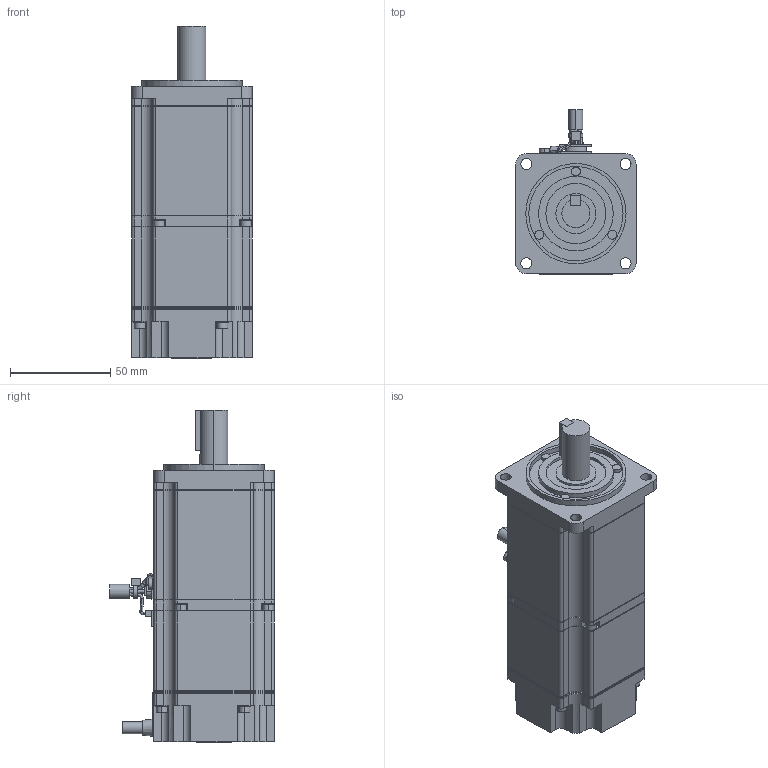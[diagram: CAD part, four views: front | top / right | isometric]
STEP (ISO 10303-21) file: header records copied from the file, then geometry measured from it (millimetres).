
FILE_DESCRIPTION (( 'STEP AP203' ), '1' );
FILE_NAME ('sjme_02amb4c.STEP', '2011-11-08T23:38:13', ( '匠エンジニアリング山之内' ), ( 'TAKUMI-Engniaring' ), 'SwSTEP 2.0', 'SolidWorks 2006303', '' );
FILE_SCHEMA (( 'CONFIG_CONTROL_DESIGN' ));
Length unit declared in the file: millimetre
Products named in the file (3): sjme_02amb4c; sjme_02amb4c_base; sjme_02amb4c_key
Assembly tree (2 placements, depth 2):
  sjme_02amb4c
    sjme_02amb4c_base
    sjme_02amb4c_key
Bounding box: 60.1 x 81.9 x 165.6 mm (x, y, z)
Volume: 434800.1 mm3; surface area: 43712 mm2
Topology: 2 solids, 2 shells, 562 faces, 1538 edges, 1012 vertices
Faces by surface type: plane 288, cylinder 234, bspline 30, torus 8, cone 2
Entity records: 19026 total; most frequent: CARTESIAN_POINT 4107, DIRECTION 3097, ORIENTED_EDGE 3076, EDGE_CURVE 1538, AXIS2_PLACEMENT_3D 1078, VERTEX_POINT 1012, VECTOR 941, LINE 941
